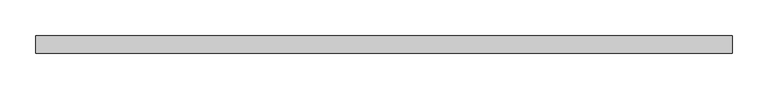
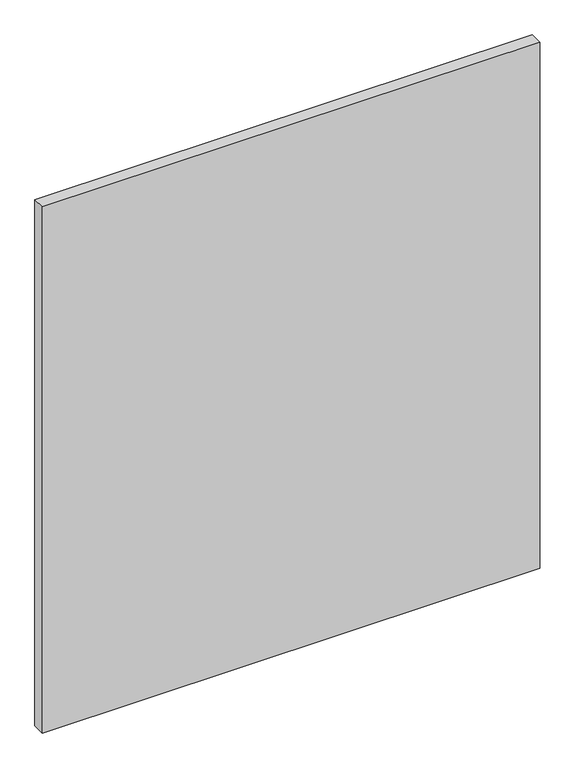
"""IFC4 building model written with IfcOpenShell, lengths in millimetres: plate geometry, 系統嵌板 : 有玻璃的."""

from ifc_helpers import new_model, si_unit, origin, origin_with_axes, place, context, project, spatial, polyline, outline, extrude, source, transform, mapped, element, save


def plate_5f0fc48b(model_context):
    return source(origin(), model_context, "Body", "SweptSolid", [
        extrude(outline(polyline([(490.8333333, 24.5), (-490.8333333, 24.5), (-490.8333333, 49.5), (490.8333333, 49.5), (490.8333333, 24.5)])), origin_with_axes(), (0.0, 0.0, 1.0), 1097.6738463),
    ])


if __name__ == "__main__":
    model = new_model("IFC4")
    model_context = context("Model", 3, world=origin())
    ifc_project = project(units=[si_unit("LENGTHUNIT", "METRE", prefix="MILLI")], contexts=[model_context])
    site = spatial("IfcSite", under=ifc_project)
    building = spatial("IfcBuilding", under=site)
    placement = place(None, origin())
    plate_shape = plate_5f0fc48b(model_context)
    element("IfcPlate", 1, ObjectType="系統嵌板 : 有玻璃的", at=placement, inside=building, context=model_context, shape_type="MappedRepresentation", body=[
        mapped(plate_shape, transform((0.0, 0.0, 0.0), x_axis=(1.0, 0.0, 0.0), y_axis=(0.0, 1.0, 0.0), z_axis=(0.0, 0.0, 1.0))),
    ])
    save(model, "model.ifc")
